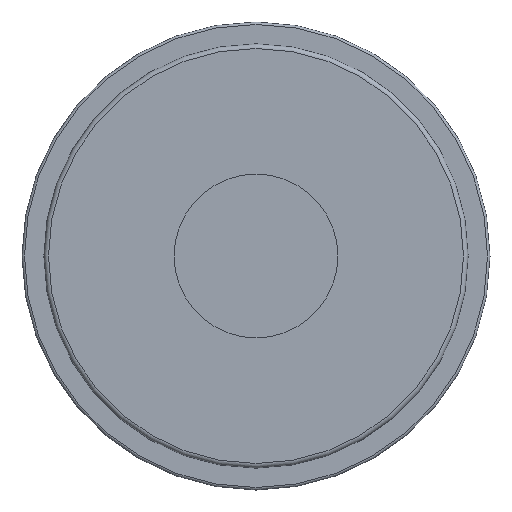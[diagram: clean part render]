
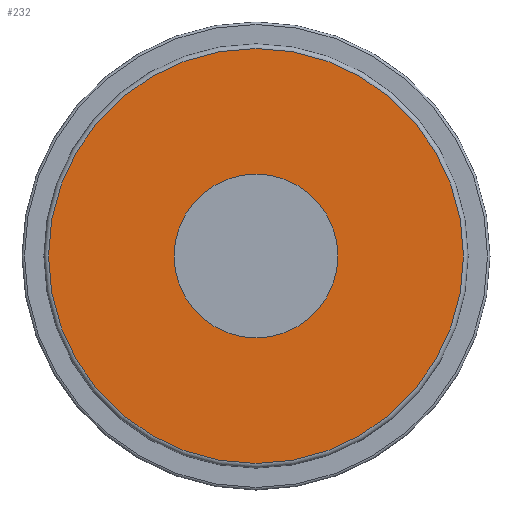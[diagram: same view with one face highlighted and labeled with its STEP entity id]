
A CAD part, left-side view. The second image highlights one B-rep face of the part: STEP entity #232.
In plain terms, the highlighted planar face has unit normal (-1, 0, 0).
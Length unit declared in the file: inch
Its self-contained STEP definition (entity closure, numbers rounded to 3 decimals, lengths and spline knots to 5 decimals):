
#46=FACE_BOUND('',#75,.T.);
#52=PLANE('',#281);
#62=FACE_OUTER_BOUND('',#74,.T.);
#74=EDGE_LOOP('',(#193,#194));
#75=EDGE_LOOP('',(#195));
#89=CIRCLE('',#258,0.525);
#103=CIRCLE('',#277,1.33);
#104=CIRCLE('',#278,1.33);
#111=VERTEX_POINT('',#404);
#124=VERTEX_POINT('',#437);
#125=VERTEX_POINT('',#439);
#132=EDGE_CURVE('',#111,#111,#89,.T.);
#147=EDGE_CURVE('',#124,#125,#103,.T.);
#148=EDGE_CURVE('',#125,#124,#104,.T.);
#193=ORIENTED_EDGE('',*,*,#148,.F.);
#194=ORIENTED_EDGE('',*,*,#147,.F.);
#195=ORIENTED_EDGE('',*,*,#132,.T.);
#232=ADVANCED_FACE('',(#62,#46),#52,.T.);
#258=AXIS2_PLACEMENT_3D('',#406,#309,#310);
#277=AXIS2_PLACEMENT_3D('',#440,#348,#349);
#278=AXIS2_PLACEMENT_3D('',#441,#350,#351);
#281=AXIS2_PLACEMENT_3D('',#445,#357,#358);
#309=DIRECTION('center_axis',(1.,0.,0.));
#310=DIRECTION('ref_axis',(0.,0.,-1.));
#348=DIRECTION('center_axis',(1.,0.,0.));
#349=DIRECTION('ref_axis',(0.,-1.,0.));
#350=DIRECTION('center_axis',(1.,0.,0.));
#351=DIRECTION('ref_axis',(0.,-1.,0.));
#357=DIRECTION('center_axis',(-1.,0.,0.));
#358=DIRECTION('ref_axis',(0.,0.,1.));
#404=CARTESIAN_POINT('',(0.,0.,0.525));
#406=CARTESIAN_POINT('Origin',(0.,0.,0.));
#437=CARTESIAN_POINT('',(0.,0.,1.33));
#439=CARTESIAN_POINT('',(0.,1.33,0.));
#440=CARTESIAN_POINT('Origin',(0.,0.,0.));
#441=CARTESIAN_POINT('Origin',(0.,0.,0.));
#445=CARTESIAN_POINT('Origin',(0.,1.36,0.));
